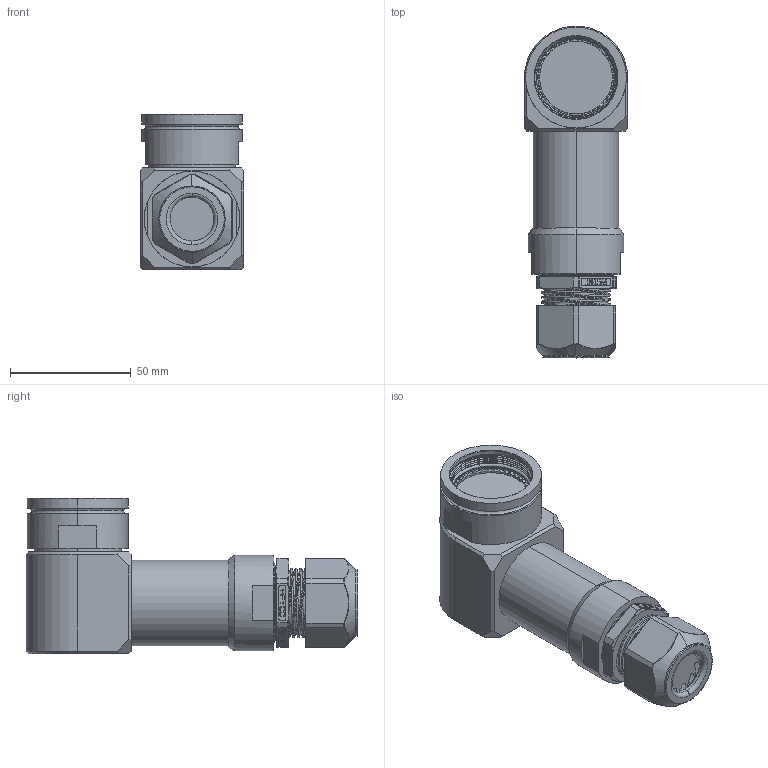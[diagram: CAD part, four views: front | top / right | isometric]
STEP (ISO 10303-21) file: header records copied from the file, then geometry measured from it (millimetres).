
FILE_DESCRIPTION (( 'STEP AP214' ), '1' );
FILE_NAME ('Q38EBSHELL-90X-23-XXXX-GL.STEP', '2025-09-25T17:40:22', ( '' ), ( '' ), 'SwSTEP 2.0', 'SolidWorks 2024', '' );
FILE_SCHEMA (( 'AUTOMOTIVE_DESIGN' ));
Length unit declared in the file: millimetre
Products named in the file (1): Q38EBSHELL-90X-23-XXXX-GL
Bounding box: 42.8 x 137.59 x 64.41 mm (x, y, z)
Surface area: 44722.4 mm2 (no closed solid volume)
Topology: 0 solids, 10 shells, 1413 faces, 3792 edges, 2453 vertices
Faces by surface type: plane 759, cylinder 244, bspline 146, cone 123, torus 121, sphere 20
Entity records: 66908 total; most frequent: CARTESIAN_POINT 38471, ORIENTED_EDGE 7535, EDGE_CURVE 3792, DIRECTION 3480, B_SPLINE_CURVE_WITH_KNOTS 2848, VERTEX_POINT 2453, AXIS2_PLACEMENT_3D 1565, EDGE_LOOP 1483
